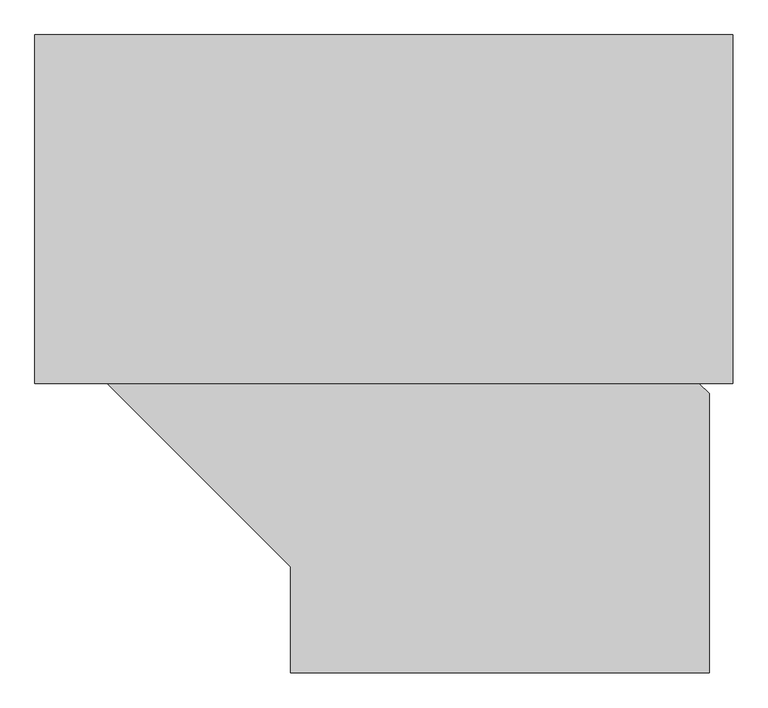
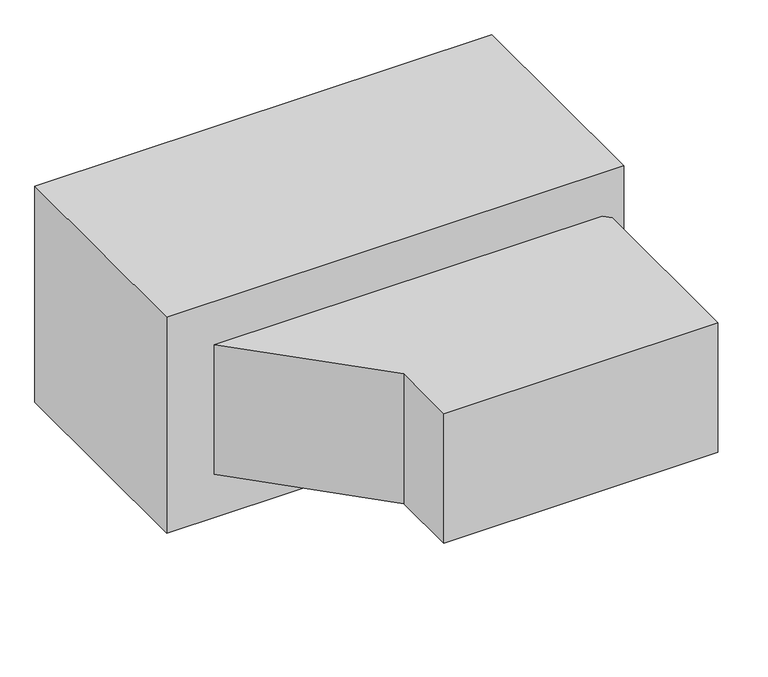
"""IFC4 building model written with IfcOpenShell, lengths in millimetres: duct fitting geometry, 2017_Zapato_Climaver_Zapato : Zapato_Climaver."""

import ifcopenshell
import ifcopenshell.guid

model = None  # the IFC model being written
_history = None  # IfcOwnerHistory: only IFC2X3 demands one
_inside = {}  # id of a spatial element -> (the spatial element, [elements in it])
_under = {}  # id of a project, library or spatial element -> (it, [spatial elements below it])
_declared = {}  # id of a project -> (the project, [libraries it declares])
_typed = {}  # id of a type object -> (the type object, [elements of that type])
_made_of = {}  # id of a material, layer set ... -> (it, [elements and type objects made of it])


def new_model(schema):
    """Start an empty IFC model of exactly this schema.

    Asked for "IFC4X3", IfcOpenShell would pick the latest addendum, in which some entities
    have other attributes; the version numbers below select the first issue.
    IFC2X3 requires an IfcOwnerHistory on every rooted entity: one is made here for all.
    """
    global model, _history
    if schema == "IFC4X3":
        model = ifcopenshell.file(schema_version=(4, 3, 0, 0))
    else:
        model = ifcopenshell.file(schema=schema)
    _inside.clear()
    _under.clear()
    _declared.clear()
    _typed.clear()
    _made_of.clear()
    _history = None
    if model.schema == "IFC2X3":
        org = make("IfcOrganization", Name="unknown")
        user = make(
            "IfcPersonAndOrganization",
            ThePerson=make("IfcPerson", FamilyName="unknown"),
            TheOrganization=org,
        )
        app = make(
            "IfcApplication",
            ApplicationDeveloper=org,
            Version="unknown",
            ApplicationFullName="unknown",
            ApplicationIdentifier="unknown",
        )
        _history = make(
            "IfcOwnerHistory",
            OwningUser=user,
            OwningApplication=app,
            ChangeAction="ADDED",
            CreationDate=0,
        )
    return model


def make(cls, **values):
    """One entity of the class cls with the attributes given. An attribute that is None is left unset."""
    return model.create_entity(
        cls, **{name: value for name, value in values.items() if value is not None}
    )


def rooted(cls, **values):
    """An entity with a GlobalId (a new one), such as an element, a storey or a relation."""
    return make(cls, GlobalId=ifcopenshell.guid.new(), OwnerHistory=_history, **values)


def si_unit(unit_type, name, prefix=None):
    """IfcSIUnit, for example si_unit("LENGTHUNIT", "METRE", prefix="MILLI")."""
    return make("IfcSIUnit", UnitType=unit_type, Prefix=prefix, Name=name)


def assignment(units):
    """IfcUnitAssignment: the units of a project."""
    return None if units is None else make("IfcUnitAssignment", Units=units)


def point(xyz):
    """IfcCartesianPoint."""
    return None if xyz is None else make("IfcCartesianPoint", Coordinates=xyz)


def direction(xyz):
    """IfcDirection."""
    return None if xyz is None else make("IfcDirection", DirectionRatios=xyz)


def frame(location, z_axis=None, x_axis=None):
    """IfcAxis2Placement3D, a coordinate frame: its origin and axes. An axis left out is left unset."""
    return make(
        "IfcAxis2Placement3D",
        Location=point(location),
        Axis=direction(z_axis),
        RefDirection=direction(x_axis),
    )


def origin():
    """The frame at (0, 0, 0) with its axes left unset."""
    return frame((0.0, 0.0, 0.0))


def place(relative_to, where):
    """IfcLocalPlacement: puts the frame where relative to a parent placement (None: the world)."""
    return make(
        "IfcLocalPlacement", PlacementRelTo=relative_to, RelativePlacement=where
    )


def context(
    kind, dimensions, precision=None, world=None, true_north=None, identifier=None
):
    """IfcGeometricRepresentationContext, for example the 3D "Model" context."""
    return make(
        "IfcGeometricRepresentationContext",
        ContextIdentifier=identifier,
        ContextType=kind,
        CoordinateSpaceDimension=dimensions,
        Precision=precision,
        WorldCoordinateSystem=world,
        TrueNorth=true_north,
    )


def project(units=None, contexts=None):
    """IfcProject with its units and contexts."""
    return rooted(
        "IfcProject",
        Name="project",
        RepresentationContexts=contexts,
        UnitsInContext=assignment(units),
    )


def spatial(cls, under=None, at=None, **own):
    """A site, building, storey or space (cls), placed at a placement, below another one or the project."""
    s = rooted(cls, ObjectPlacement=at, **own)
    if under is not None:
        _under.setdefault(under.id(), (under, []))[1].append(s)
    return s


def faces_of(points, faces, orient=None, outer=None):
    """IfcFace entities. A face is a list of loops; a loop is a list of indices into points, from 0.

    orient and outer hold one flag for each loop. By default every Orientation is true, the
    first loop of a face is its IfcFaceOuterBound and the others are IfcFaceBound.
    """
    made = []
    for i, loops in enumerate(faces):
        bounds = []
        for j, loop in enumerate(loops):
            is_outer = j == 0 if outer is None else outer[i][j]
            bounds.append(
                make(
                    "IfcFaceOuterBound" if is_outer else "IfcFaceBound",
                    Bound=make("IfcPolyLoop", Polygon=[points[k] for k in loop]),
                    Orientation=True if orient is None else orient[i][j],
                )
            )
        made.append(make("IfcFace", Bounds=bounds))
    return made


def faceted_brep(points, faces, orient=None, outer=None, voids=None):
    """IfcFacetedBrep: a solid bounded by flat faces; with voids (closed shells), ...WithVoids."""
    shared = [point(p) for p in points]
    hull = make("IfcClosedShell", CfsFaces=faces_of(shared, faces, orient, outer))
    if voids is None:
        return make("IfcFacetedBrep", Outer=hull)
    return make(
        "IfcFacetedBrepWithVoids",
        Outer=hull,
        Voids=[
            make(cls, CfsFaces=faces_of(shared, fs, o, b)) for cls, fs, o, b in voids
        ],
    )


def shape(context_of_items, identifier, shape_type, items):
    """IfcShapeRepresentation: the items that make up one representation, for example the "Body"."""
    return make(
        "IfcShapeRepresentation",
        ContextOfItems=context_of_items,
        RepresentationIdentifier=identifier,
        RepresentationType=shape_type,
        Items=items,
    )


def source(mapping_origin, context_of_items, identifier, shape_type, items):
    """IfcRepresentationMap: a shape defined once, which mapped items show again and again."""
    return make(
        "IfcRepresentationMap",
        MappingOrigin=mapping_origin,
        MappedRepresentation=shape(context_of_items, identifier, shape_type, items),
    )


def transform(
    local_origin,
    x_axis=None,
    y_axis=None,
    z_axis=None,
    scale=None,
    scale2=None,
    scale3=None,
    uniform=True,
):
    """IfcCartesianTransformationOperator3D, or its non-uniform kind. x_axis, y_axis, z_axis: its Axis1, 2, 3."""
    if uniform:
        return make(
            "IfcCartesianTransformationOperator3D",
            Axis1=direction(x_axis),
            Axis2=direction(y_axis),
            LocalOrigin=point(local_origin),
            Scale=scale,
            Axis3=direction(z_axis),
        )
    return make(
        "IfcCartesianTransformationOperator3DnonUniform",
        Axis1=direction(x_axis),
        Axis2=direction(y_axis),
        LocalOrigin=point(local_origin),
        Scale=scale,
        Axis3=direction(z_axis),
        Scale2=scale2,
        Scale3=scale3,
    )


def mapped(mapping_source, mapping_target):
    """IfcMappedItem: shows the shape of a source again, moved by a transform."""
    return make(
        "IfcMappedItem", MappingSource=mapping_source, MappingTarget=mapping_target
    )


def made_of(thing, what):
    """Note that an element or type object is made of a material, layer set ...; save() writes the relation."""
    if what is not None:
        _made_of.setdefault(what.id(), (what, []))[1].append(thing)
    return thing


def element(
    cls,
    number,
    at=None,
    inside=None,
    cuts=None,
    type_object=None,
    material=None,
    context=None,
    identifier="Body",
    shape_type=None,
    held_by="IfcProductDefinitionShape",
    body=None,
    shapes=None,
    **own,
):
    """One element of the class cls, such as IfcWall. Its Tag is "e" and its number.

    at: its placement. inside: the storey or other place that contains it. cuts: it is an
    opening in that element (IfcRelVoidsElement). A single representation is given by context,
    identifier, shape_type and body (its items); several are given by shapes. held_by: the class
    of the entity that holds the representations. save() writes the other relations.
    """
    e = rooted(cls, Tag="e%d" % number, ObjectPlacement=at, **own)
    if body is not None:
        shapes = [shape(context, identifier, shape_type, body)]
    if shapes is not None:
        e.Representation = make(held_by, Representations=shapes)
    if inside is not None:
        _inside.setdefault(inside.id(), (inside, []))[1].append(e)
    if cuts is not None:
        rooted(
            "IfcRelVoidsElement", RelatingBuildingElement=cuts, RelatedOpeningElement=e
        )
    if type_object is not None:
        _typed.setdefault(type_object.id(), (type_object, []))[1].append(e)
    return made_of(e, material)


def aggregate(whole, parts):
    """IfcRelAggregates: a whole, such as a stair, and the parts it consists of."""
    return rooted("IfcRelAggregates", RelatingObject=whole, RelatedObjects=parts)


def save(model, path):
    """Write the relations noted so far, then the file.

    IfcRelAggregates (storeys below a building ...), IfcRelContainedInSpatialStructure (elements
    in a storey), IfcRelDefinesByType, IfcRelAssociatesMaterial and IfcRelDeclares: one each for
    every whole, place, type object, material and project.
    """
    for whole, parts in _under.values():
        aggregate(whole, parts)
    for where, things in _inside.values():
        rooted(
            "IfcRelContainedInSpatialStructure",
            RelatedElements=things,
            RelatingStructure=where,
        )
    for kind, things in _typed.values():
        rooted("IfcRelDefinesByType", RelatedObjects=things, RelatingType=kind)
    for what, things in _made_of.values():
        rooted("IfcRelAssociatesMaterial", RelatedObjects=things, RelatingMaterial=what)
    for by, libraries in _declared.values():
        rooted("IfcRelDeclares", RelatingContext=by, RelatedDefinitions=libraries)
    model.write(path)


def duct_fitting_83dd66a9(model_context):
    return source(origin(), model_context, "Body", "Brep", [
        faceted_brep([(-666.6666667, 250.0, 250.0), (-666.6666667, 250.0, -250.0), (-666.6666667, -250.0, -250.0), (-666.6666667, -250.0, 250.0), (333.3333333, 250.0, 250.0), (333.3333333, -250.0, 250.0), (333.3333333, -250.0, -250.0), (333.3333333, 250.0, -250.0), (285.8578644, -250.0, 150.0), (285.8578644, -250.0, -150.0), (-562.670273, -250.0, -150.0), (-562.670273, -250.0, 150.0), (300.0, -264.1421356, 150.0), (300.0, -264.1421356, -150.0), (300.0, -664.1421356, -150.0), (-300.0, -664.1421356, -150.0), (-300.0, -512.670273, -150.0), (-300.0, -512.670273, 150.0), (-300.0, -664.1421356, 150.0), (300.0, -664.1421356, 150.0)], [[[0, 1, 2, 3]], [[4, 5, 6, 7]], [[1, 0, 4, 7]], [[2, 1, 7, 6]], [[3, 2, 6, 5], [8, 9, 10, 11]], [[0, 3, 5, 4]], [[12, 13, 9, 8]], [[13, 14, 15, 16, 10, 9]], [[16, 17, 11, 10]], [[17, 18, 19, 12, 8, 11]], [[15, 14, 19, 18]], [[13, 12, 19, 14]], [[16, 15, 18, 17]]]),
    ])


if __name__ == "__main__":
    model = new_model("IFC4")
    model_context = context("Model", 3, world=origin())
    ifc_project = project(units=[si_unit("LENGTHUNIT", "METRE", prefix="MILLI")], contexts=[model_context])
    site = spatial("IfcSite", under=ifc_project)
    building = spatial("IfcBuilding", under=site)
    placement = place(None, origin())
    duct_fitting_shape = duct_fitting_83dd66a9(model_context)
    element("IfcDuctFitting", 1, ObjectType="2017_Zapato_Climaver_Zapato : Zapato_Climaver", at=placement, inside=building, context=model_context, shape_type="MappedRepresentation", body=[
        mapped(duct_fitting_shape, transform((0.0, 0.0, 0.0), x_axis=(1.0, 0.0, 0.0), y_axis=(0.0, 1.0, 0.0), z_axis=(0.0, 0.0, 1.0))),
    ])
    save(model, "model.ifc")
